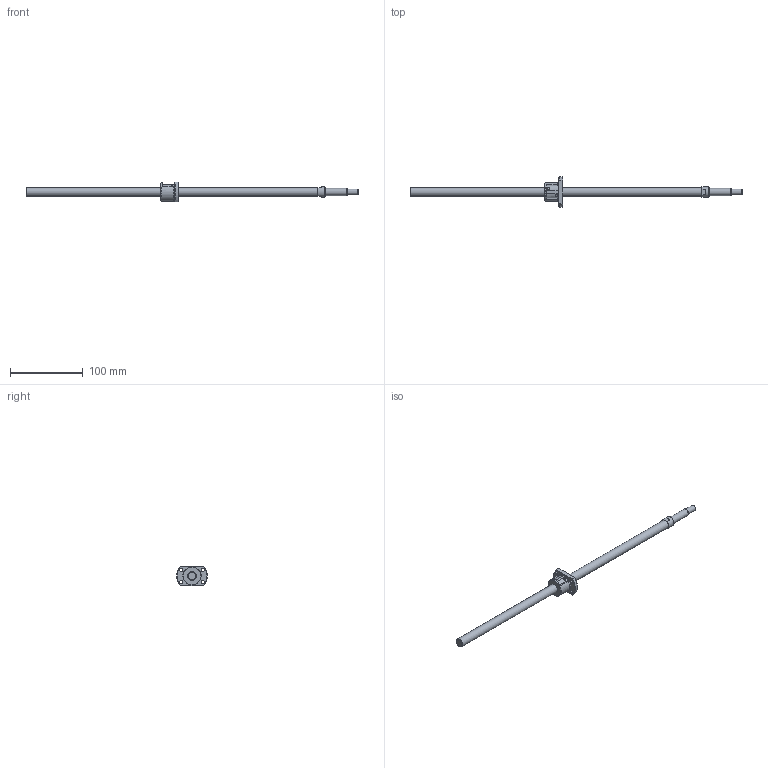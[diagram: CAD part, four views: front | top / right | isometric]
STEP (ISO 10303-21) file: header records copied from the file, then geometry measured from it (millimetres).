
FILE_DESCRIPTION(/* description */ ('STEP AP214'),/* implementation_level */ '2;1');
FILE_NAME(/* name */ 'SRT1202-396R455C7A0X(185Processing)',/* time_stamp */ '2026-08-06T15:12:34+02:00',/* author */ ('License CC BY-ND 4.0'),/* organization */ ('CADENAS'),/* preprocessor_version */ 'ST-DEVELOPER v20',/* originating_system */ 'PARTsolutions',/* authorisation */ ' ');
FILE_SCHEMA (('AUTOMOTIVE_DESIGN {1 0 10303 214 3 1 1}'));
Length unit declared in the file: millimetre
Products named in the file (3): SRT1202-396R455C7A0X(185Processing); SRT1202-396R470ACt7Processing78Shaft; SRT1202Nut
Assembly tree (2 placements, depth 2):
  SRT1202-396R455C7A0X(185Processing)
    SRT1202-396R470ACt7Processing78Shaft
    SRT1202Nut
Bounding box: 455 x 42 x 27 mm (x, y, z)
Volume: 60698.9 mm3; surface area: 22146.1 mm2
Topology: 2 solids, 2 shells, 70 faces, 166 edges, 105 vertices
Faces by surface type: plane 43, cylinder 15, cone 11, torus 1
Full cylindrical faces by diameter (mm): 4.5 x4, 8 x1, 10 x1, 12 x2, 14 x1, 24.5 x1, 25 x1
Entity records: 1955 total; most frequent: CARTESIAN_POINT 351, DIRECTION 332, ORIENTED_EDGE 276, EDGE_CURVE 138, AXIS2_PLACEMENT_3D 131, EDGE_LOOP 104, FACE_BOUND 104, VERTEX_POINT 96
